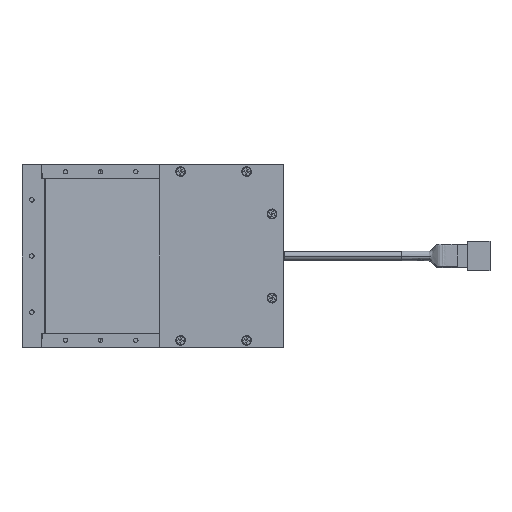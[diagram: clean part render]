
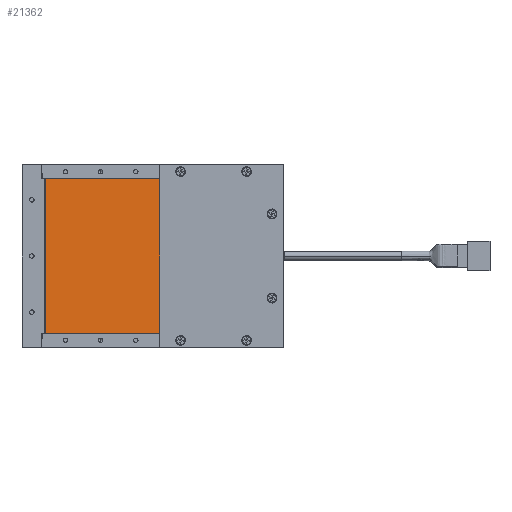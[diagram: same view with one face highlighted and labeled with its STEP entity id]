
A CAD part, front view. The second image highlights one B-rep face of the part: STEP entity #21362.
In plain terms, the highlighted planar face has unit normal (0.707, -0.707, 0).
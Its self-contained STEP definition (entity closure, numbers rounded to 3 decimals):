
#183 = DIRECTION ( 'NONE',  ( -0.707, 0.707, 0. ) ) ;
#668 = AXIS2_PLACEMENT_3D ( 'NONE', #13724, #183, #8242 ) ;
#2534 = EDGE_CURVE ( 'NONE', #3928, #15016, #19653, .T. ) ;
#2976 = VERTEX_POINT ( 'NONE', #22430 ) ;
#3928 = VERTEX_POINT ( 'NONE', #31465 ) ;
#4484 = EDGE_CURVE ( 'NONE', #20777, #19329, #16264, .T. ) ;
#6077 = VECTOR ( 'NONE', #14949, 1000. ) ;
#6169 = CARTESIAN_POINT ( 'NONE',  ( -19.234, -19.588, 29. ) ) ;
#8219 = ORIENTED_EDGE ( 'NONE', *, *, #9755, .T. ) ;
#8242 = DIRECTION ( 'NONE',  ( 0.707, 0.707, 0. ) ) ;
#9162 = VECTOR ( 'NONE', #13650, 1000. ) ;
#9299 = VERTEX_POINT ( 'NONE', #30153 ) ;
#9313 = CARTESIAN_POINT ( 'NONE',  ( 21.778, 21.424, 28.5 ) ) ;
#9755 = EDGE_CURVE ( 'NONE', #32728, #9299, #18050, .T. ) ;
#11099 = EDGE_CURVE ( 'NONE', #32728, #31700, #13204, .T. ) ;
#11949 = EDGE_LOOP ( 'NONE', ( #27615, #20665, #30392, #14818, #15585, #8219, #23751, #17539 ) ) ;
#12620 = CARTESIAN_POINT ( 'NONE',  ( 21.424, 21.071, 29. ) ) ;
#12669 = DIRECTION ( 'NONE',  ( 0., 0., -1. ) ) ;
#13204 = LINE ( 'NONE', #18158, #6077 ) ;
#13437 = LINE ( 'NONE', #9313, #34025 ) ;
#13650 = DIRECTION ( 'NONE',  ( 0.5, 0.5, -0.707 ) ) ;
#13724 = CARTESIAN_POINT ( 'NONE',  ( 1.095, 0.741, 0. ) ) ;
#14818 = ORIENTED_EDGE ( 'NONE', *, *, #22353, .T. ) ;
#14949 = DIRECTION ( 'NONE',  ( 0.707, 0.707, 0. ) ) ;
#15016 = VERTEX_POINT ( 'NONE', #30433 ) ;
#15246 = CARTESIAN_POINT ( 'NONE',  ( 21.778, 21.424, 29. ) ) ;
#15585 = ORIENTED_EDGE ( 'NONE', *, *, #11099, .F. ) ;
#15603 = VECTOR ( 'NONE', #22196, 1000. ) ;
#16264 = LINE ( 'NONE', #16471, #9162 ) ;
#16471 = CARTESIAN_POINT ( 'NONE',  ( -19.588, -19.941, -28.5 ) ) ;
#17539 = ORIENTED_EDGE ( 'NONE', *, *, #4484, .T. ) ;
#17766 = CARTESIAN_POINT ( 'NONE',  ( -19.588, -19.941, 29. ) ) ;
#18050 = LINE ( 'NONE', #29883, #29784 ) ;
#18158 = CARTESIAN_POINT ( 'NONE',  ( -19.588, -19.941, 29. ) ) ;
#19081 = LINE ( 'NONE', #27250, #32489 ) ;
#19329 = VERTEX_POINT ( 'NONE', #32742 ) ;
#19653 = LINE ( 'NONE', #15246, #24645 ) ;
#20665 = ORIENTED_EDGE ( 'NONE', *, *, #24657, .T. ) ;
#20777 = VERTEX_POINT ( 'NONE', #25883 ) ;
#20800 = EDGE_CURVE ( 'NONE', #2976, #19329, #19081, .T. ) ;
#21182 = LINE ( 'NONE', #17766, #32069 ) ;
#21362 = ADVANCED_FACE ( 'NONE', ( #24106 ), #24549, .F. ) ;
#22196 = DIRECTION ( 'NONE',  ( 0.5, 0.5, 0.707 ) ) ;
#22353 = EDGE_CURVE ( 'NONE', #3928, #31700, #13437, .T. ) ;
#22430 = CARTESIAN_POINT ( 'NONE',  ( 21.424, 21.071, -29. ) ) ;
#23751 = ORIENTED_EDGE ( 'NONE', *, *, #34264, .F. ) ;
#24106 = FACE_OUTER_BOUND ( 'NONE', #11949, .T. ) ;
#24549 = PLANE ( 'NONE',  #668 ) ;
#24645 = VECTOR ( 'NONE', #12669, 1000. ) ;
#24657 = EDGE_CURVE ( 'NONE', #2976, #15016, #33222, .T. ) ;
#25883 = CARTESIAN_POINT ( 'NONE',  ( -19.588, -19.941, -28.5 ) ) ;
#26755 = DIRECTION ( 'NONE',  ( 0., 0., 1. ) ) ;
#27250 = CARTESIAN_POINT ( 'NONE',  ( -19.588, -19.941, -29. ) ) ;
#27414 = DIRECTION ( 'NONE',  ( -0.5, -0.5, -0.707 ) ) ;
#27615 = ORIENTED_EDGE ( 'NONE', *, *, #20800, .F. ) ;
#28064 = DIRECTION ( 'NONE',  ( -0.5, -0.5, 0.707 ) ) ;
#29784 = VECTOR ( 'NONE', #27414, 1000. ) ;
#29883 = CARTESIAN_POINT ( 'NONE',  ( -19.234, -19.588, 29. ) ) ;
#29970 = DIRECTION ( 'NONE',  ( -0.707, -0.707, 0. ) ) ;
#30153 = CARTESIAN_POINT ( 'NONE',  ( -19.588, -19.941, 28.5 ) ) ;
#30392 = ORIENTED_EDGE ( 'NONE', *, *, #2534, .F. ) ;
#30396 = CARTESIAN_POINT ( 'NONE',  ( 21.424, 21.071, -29. ) ) ;
#30433 = CARTESIAN_POINT ( 'NONE',  ( 21.778, 21.424, -28.5 ) ) ;
#31465 = CARTESIAN_POINT ( 'NONE',  ( 21.778, 21.424, 28.5 ) ) ;
#31700 = VERTEX_POINT ( 'NONE', #12620 ) ;
#32069 = VECTOR ( 'NONE', #26755, 1000. ) ;
#32489 = VECTOR ( 'NONE', #29970, 1000. ) ;
#32728 = VERTEX_POINT ( 'NONE', #6169 ) ;
#32742 = CARTESIAN_POINT ( 'NONE',  ( -19.234, -19.588, -29. ) ) ;
#33222 = LINE ( 'NONE', #30396, #15603 ) ;
#34025 = VECTOR ( 'NONE', #28064, 1000. ) ;
#34264 = EDGE_CURVE ( 'NONE', #20777, #9299, #21182, .T. ) ;
